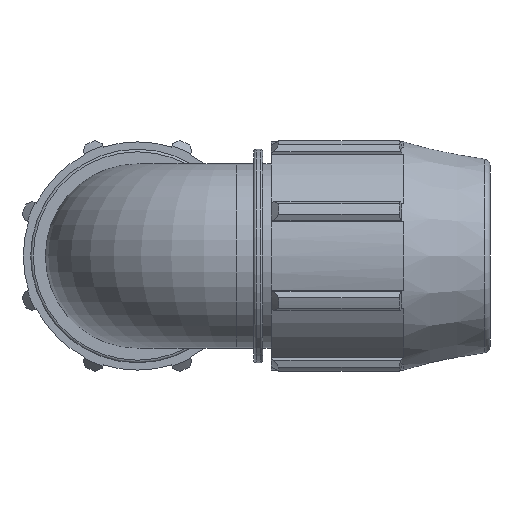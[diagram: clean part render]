
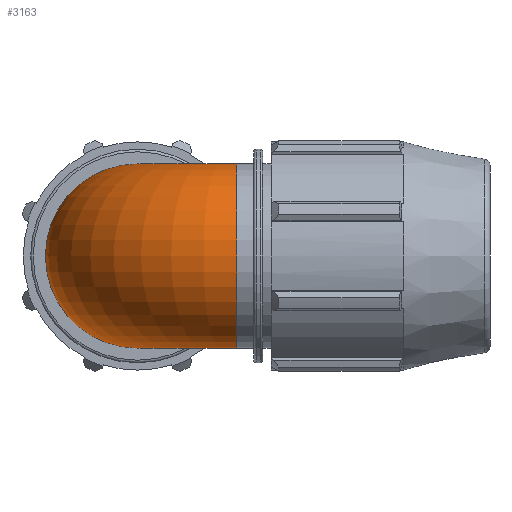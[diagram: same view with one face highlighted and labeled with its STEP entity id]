
A CAD part, front view. The second image highlights one B-rep face of the part: STEP entity #3163.
In plain terms, the highlighted toroidal (fillet/blend) face has major radius 25.908 mm and minor radius 24.003 mm.
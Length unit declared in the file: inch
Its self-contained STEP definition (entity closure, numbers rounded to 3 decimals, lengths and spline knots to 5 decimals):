
#633=TOROIDAL_SURFACE('',#3354,1.02,0.945);
#655=FACE_OUTER_BOUND('',#819,.T.);
#819=EDGE_LOOP('',(#1981,#1982,#1983,#1984,#1985,#1986,#1987));
#997=CIRCLE('',#3355,0.945);
#998=CIRCLE('',#3356,0.945);
#999=CIRCLE('',#3357,0.075);
#1000=CIRCLE('',#3358,0.945);
#1001=CIRCLE('',#3359,0.945);
#1002=CIRCLE('',#3360,0.945);
#1171=VERTEX_POINT('',#4615);
#1172=VERTEX_POINT('',#4616);
#1173=VERTEX_POINT('',#4619);
#1174=VERTEX_POINT('',#4621);
#1175=VERTEX_POINT('',#4623);
#1499=EDGE_CURVE('',#1171,#1172,#997,.T.);
#1500=EDGE_CURVE('',#1172,#1171,#998,.T.);
#1501=EDGE_CURVE('',#1172,#1173,#999,.T.);
#1502=EDGE_CURVE('',#1174,#1173,#1000,.T.);
#1503=EDGE_CURVE('',#1175,#1174,#1001,.T.);
#1504=EDGE_CURVE('',#1173,#1175,#1002,.T.);
#1981=ORIENTED_EDGE('',*,*,#1499,.F.);
#1982=ORIENTED_EDGE('',*,*,#1500,.F.);
#1983=ORIENTED_EDGE('',*,*,#1501,.T.);
#1984=ORIENTED_EDGE('',*,*,#1502,.F.);
#1985=ORIENTED_EDGE('',*,*,#1503,.F.);
#1986=ORIENTED_EDGE('',*,*,#1504,.F.);
#1987=ORIENTED_EDGE('',*,*,#1501,.F.);
#3163=ADVANCED_FACE('',(#655),#633,.T.);
#3354=AXIS2_PLACEMENT_3D('',#4614,#3705,#3706);
#3355=AXIS2_PLACEMENT_3D('',#4617,#3707,#3708);
#3356=AXIS2_PLACEMENT_3D('',#4618,#3709,#3710);
#3357=AXIS2_PLACEMENT_3D('',#4620,#3711,#3712);
#3358=AXIS2_PLACEMENT_3D('',#4622,#3713,#3714);
#3359=AXIS2_PLACEMENT_3D('',#4624,#3715,#3716);
#3360=AXIS2_PLACEMENT_3D('',#4625,#3717,#3718);
#3705=DIRECTION('center_axis',(0.,0.,-1.));
#3706=DIRECTION('ref_axis',(-1.,0.,0.));
#3707=DIRECTION('center_axis',(0.,1.,0.));
#3708=DIRECTION('ref_axis',(0.,0.,-1.));
#3709=DIRECTION('center_axis',(0.,1.,0.));
#3710=DIRECTION('ref_axis',(0.,0.,-1.));
#3711=DIRECTION('center_axis',(0.,0.,1.));
#3712=DIRECTION('ref_axis',(-1.,0.,0.));
#3713=DIRECTION('center_axis',(1.,0.,0.));
#3714=DIRECTION('ref_axis',(0.,0.,-1.));
#3715=DIRECTION('center_axis',(1.,0.,0.));
#3716=DIRECTION('ref_axis',(0.,0.,-1.));
#3717=DIRECTION('center_axis',(1.,0.,0.));
#3718=DIRECTION('ref_axis',(0.,0.,-1.));
#4614=CARTESIAN_POINT('Origin',(1.02,1.02,0.));
#4615=CARTESIAN_POINT('',(0.,1.02,-0.945));
#4616=CARTESIAN_POINT('',(0.945,1.02,0.));
#4617=CARTESIAN_POINT('Origin',(0.,1.02,0.));
#4618=CARTESIAN_POINT('Origin',(0.,1.02,0.));
#4619=CARTESIAN_POINT('',(1.02,0.945,0.));
#4620=CARTESIAN_POINT('Origin',(1.02,1.02,0.));
#4621=CARTESIAN_POINT('',(1.02,0.,-0.945));
#4622=CARTESIAN_POINT('Origin',(1.02,0.,0.));
#4623=CARTESIAN_POINT('',(1.02,-0.945,0.));
#4624=CARTESIAN_POINT('Origin',(1.02,0.,0.));
#4625=CARTESIAN_POINT('Origin',(1.02,0.,0.));
